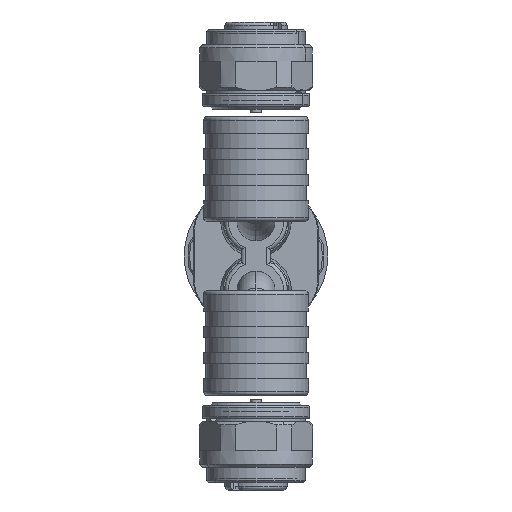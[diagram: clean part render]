
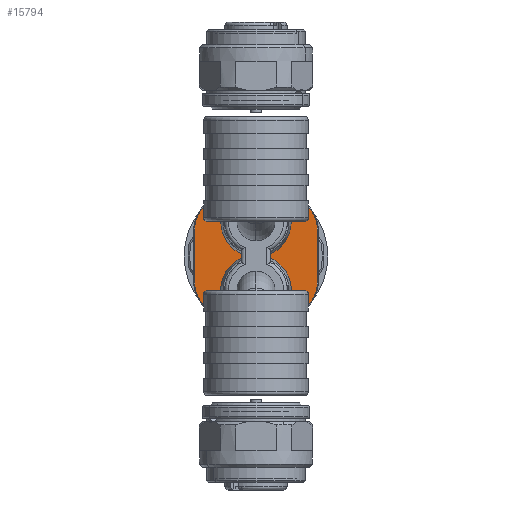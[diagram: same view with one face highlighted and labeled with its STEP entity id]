
A CAD part, front view. The second image highlights one B-rep face of the part: STEP entity #15794.
In plain terms, the highlighted planar face has unit normal (0, -1, 0).
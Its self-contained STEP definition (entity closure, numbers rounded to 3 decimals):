
#790 = DIRECTION ( 'NONE',  ( 0., -1., 0. ) ) ;
#854 = LINE ( 'NONE', #29990, #29303 ) ;
#971 = CIRCLE ( 'NONE', #17981, 4.9 ) ;
#1597 = CIRCLE ( 'NONE', #16326, 4.651 ) ;
#1790 = LINE ( 'NONE', #5033, #22061 ) ;
#1910 = DIRECTION ( 'NONE',  ( 0., -1., 0. ) ) ;
#2704 = VERTEX_POINT ( 'NONE', #29667 ) ;
#2852 = CARTESIAN_POINT ( 'NONE',  ( 0., -30.3, -4.5 ) ) ;
#3707 = AXIS2_PLACEMENT_3D ( 'NONE', #24958, #8440, #27696 ) ;
#3807 = LINE ( 'NONE', #33771, #24951 ) ;
#4070 = FACE_OUTER_BOUND ( 'NONE', #12620, .T. ) ;
#4585 = VERTEX_POINT ( 'NONE', #11546 ) ;
#4691 = DIRECTION ( 'NONE',  ( 0., -1., 0. ) ) ;
#4845 = CARTESIAN_POINT ( 'NONE',  ( -6.712, -30.3, -6.723 ) ) ;
#4970 = CIRCLE ( 'NONE', #26660, 9.5 ) ;
#5033 = CARTESIAN_POINT ( 'NONE',  ( 1.95, -30.3, -2. ) ) ;
#5139 = ORIENTED_EDGE ( 'NONE', *, *, #20087, .T. ) ;
#5228 = CIRCLE ( 'NONE', #5781, 4.9 ) ;
#5258 = CARTESIAN_POINT ( 'NONE',  ( 1.95, -30.3, -0.278 ) ) ;
#5297 = PLANE ( 'NONE',  #11982 ) ;
#5429 = CARTESIAN_POINT ( 'NONE',  ( 0., -30.3, 0. ) ) ;
#5616 = DIRECTION ( 'NONE',  ( 0., 0., 1. ) ) ;
#5781 = AXIS2_PLACEMENT_3D ( 'NONE', #31862, #15348, #34636 ) ;
#5870 = ORIENTED_EDGE ( 'NONE', *, *, #20811, .T. ) ;
#6670 = CIRCLE ( 'NONE', #28923, 9.5 ) ;
#6788 = CARTESIAN_POINT ( 'NONE',  ( 0., -30.3, 4.5 ) ) ;
#6903 = ORIENTED_EDGE ( 'NONE', *, *, #27373, .F. ) ;
#7235 = CARTESIAN_POINT ( 'NONE',  ( -8.15, -30.3, -3.255 ) ) ;
#7799 = DIRECTION ( 'NONE',  ( 0., 0., 1. ) ) ;
#8180 = DIRECTION ( 'NONE',  ( 0., 0., 1. ) ) ;
#8326 = CARTESIAN_POINT ( 'NONE',  ( -1.95, -30.3, -2. ) ) ;
#8440 = DIRECTION ( 'NONE',  ( 0., -1., 0. ) ) ;
#8894 = ORIENTED_EDGE ( 'NONE', *, *, #22666, .T. ) ;
#9229 = VERTEX_POINT ( 'NONE', #32987 ) ;
#9558 = DIRECTION ( 'NONE',  ( 0., 0., 1. ) ) ;
#9620 = EDGE_CURVE ( 'NONE', #29071, #15091, #22722, .T. ) ;
#10510 = EDGE_CURVE ( 'NONE', #26818, #26622, #4970, .T. ) ;
#10518 = CIRCLE ( 'NONE', #28941, 4.651 ) ;
#10827 = DIRECTION ( 'NONE',  ( 0., -1., 0. ) ) ;
#11281 = CIRCLE ( 'NONE', #14247, 4.651 ) ;
#11546 = CARTESIAN_POINT ( 'NONE',  ( -1.95, -30.3, 0.278 ) ) ;
#11767 = EDGE_LOOP ( 'NONE', ( #17490, #30432, #6903, #24280, #20507 ) ) ;
#11865 = CARTESIAN_POINT ( 'NONE',  ( -3.25, -30.3, -3.255 ) ) ;
#11968 = CARTESIAN_POINT ( 'NONE',  ( -1.95, -30.3, -0.278 ) ) ;
#11982 = AXIS2_PLACEMENT_3D ( 'NONE', #21686, #10827, #30138 ) ;
#12441 = EDGE_CURVE ( 'NONE', #18715, #26818, #971, .T. ) ;
#12620 = EDGE_LOOP ( 'NONE', ( #21758, #8894, #5139, #23685, #16551, #34016, #14209, #5870, #34212 ) ) ;
#12811 = CARTESIAN_POINT ( 'NONE',  ( 0., -30.3, 0. ) ) ;
#13156 = CARTESIAN_POINT ( 'NONE',  ( 0., -30.3, 9.5 ) ) ;
#13455 = DIRECTION ( 'NONE',  ( 0., 0., 1. ) ) ;
#13802 = EDGE_CURVE ( 'NONE', #14718, #2704, #1790, .T. ) ;
#14209 = ORIENTED_EDGE ( 'NONE', *, *, #14220, .T. ) ;
#14220 = EDGE_CURVE ( 'NONE', #15091, #35440, #5228, .T. ) ;
#14247 = AXIS2_PLACEMENT_3D ( 'NONE', #6788, #26056, #9558 ) ;
#14647 = DIRECTION ( 'NONE',  ( 0., 0., 1. ) ) ;
#14718 = VERTEX_POINT ( 'NONE', #5258 ) ;
#15091 = VERTEX_POINT ( 'NONE', #31616 ) ;
#15348 = DIRECTION ( 'NONE',  ( 0., -1., 0. ) ) ;
#15587 = DIRECTION ( 'NONE',  ( 0., 0., 1. ) ) ;
#15794 = ADVANCED_FACE ( 'NONE', ( #4070, #17872 ), #5297, .T. ) ;
#16326 = AXIS2_PLACEMENT_3D ( 'NONE', #2852, #22121, #5616 ) ;
#16551 = ORIENTED_EDGE ( 'NONE', *, *, #33268, .T. ) ;
#17252 = DIRECTION ( 'NONE',  ( 0., 0., -1. ) ) ;
#17279 = CARTESIAN_POINT ( 'NONE',  ( 0., -30.3, 0. ) ) ;
#17490 = ORIENTED_EDGE ( 'NONE', *, *, #21828, .F. ) ;
#17872 = FACE_BOUND ( 'NONE', #11767, .T. ) ;
#17981 = AXIS2_PLACEMENT_3D ( 'NONE', #11865, #31164, #14647 ) ;
#18440 = CARTESIAN_POINT ( 'NONE',  ( 0., -30.3, 4.5 ) ) ;
#18715 = VERTEX_POINT ( 'NONE', #7235 ) ;
#18840 = CIRCLE ( 'NONE', #3707, 4.9 ) ;
#19612 = VERTEX_POINT ( 'NONE', #32783 ) ;
#20068 = DIRECTION ( 'NONE',  ( 0., 0., 1. ) ) ;
#20087 = EDGE_CURVE ( 'NONE', #19612, #27727, #854, .T. ) ;
#20230 = CARTESIAN_POINT ( 'NONE',  ( 8.15, -30.3, 3.255 ) ) ;
#20507 = ORIENTED_EDGE ( 'NONE', *, *, #13802, .F. ) ;
#20811 = EDGE_CURVE ( 'NONE', #35440, #18715, #3807, .T. ) ;
#21206 = DIRECTION ( 'NONE',  ( 0., 0., 1. ) ) ;
#21219 = CARTESIAN_POINT ( 'NONE',  ( 3.25, -30.3, -3.255 ) ) ;
#21686 = CARTESIAN_POINT ( 'NONE',  ( 0., -30.3, 0. ) ) ;
#21758 = ORIENTED_EDGE ( 'NONE', *, *, #10510, .T. ) ;
#21828 = EDGE_CURVE ( 'NONE', #23519, #14718, #1597, .T. ) ;
#22061 = VECTOR ( 'NONE', #7799, 1000. ) ;
#22121 = DIRECTION ( 'NONE',  ( 0., -1., 0. ) ) ;
#22132 = LINE ( 'NONE', #8326, #23877 ) ;
#22666 = EDGE_CURVE ( 'NONE', #26622, #19612, #28701, .T. ) ;
#22722 = CIRCLE ( 'NONE', #26860, 9.5 ) ;
#23519 = VERTEX_POINT ( 'NONE', #11968 ) ;
#23685 = ORIENTED_EDGE ( 'NONE', *, *, #24941, .T. ) ;
#23877 = VECTOR ( 'NONE', #27590, 1000. ) ;
#23991 = DIRECTION ( 'NONE',  ( 0., 0., 1. ) ) ;
#24280 = ORIENTED_EDGE ( 'NONE', *, *, #28883, .F. ) ;
#24704 = DIRECTION ( 'NONE',  ( 0., -1., 0. ) ) ;
#24941 = EDGE_CURVE ( 'NONE', #27727, #9229, #18840, .T. ) ;
#24951 = VECTOR ( 'NONE', #17252, 1000. ) ;
#24958 = CARTESIAN_POINT ( 'NONE',  ( 3.25, -30.3, 3.255 ) ) ;
#25471 = CARTESIAN_POINT ( 'NONE',  ( -8.15, -30.3, 3.255 ) ) ;
#26056 = DIRECTION ( 'NONE',  ( 0., -1., 0. ) ) ;
#26622 = VERTEX_POINT ( 'NONE', #28592 ) ;
#26660 = AXIS2_PLACEMENT_3D ( 'NONE', #5429, #24704, #8180 ) ;
#26818 = VERTEX_POINT ( 'NONE', #4845 ) ;
#26860 = AXIS2_PLACEMENT_3D ( 'NONE', #12811, #32107, #15587 ) ;
#27373 = EDGE_CURVE ( 'NONE', #30415, #4585, #10518, .T. ) ;
#27590 = DIRECTION ( 'NONE',  ( 0., 0., -1. ) ) ;
#27696 = DIRECTION ( 'NONE',  ( 0., 0., 1. ) ) ;
#27727 = VERTEX_POINT ( 'NONE', #20230 ) ;
#28592 = CARTESIAN_POINT ( 'NONE',  ( 6.712, -30.3, -6.723 ) ) ;
#28701 = CIRCLE ( 'NONE', #30921, 4.9 ) ;
#28883 = EDGE_CURVE ( 'NONE', #2704, #30415, #11281, .T. ) ;
#28923 = AXIS2_PLACEMENT_3D ( 'NONE', #17279, #790, #20068 ) ;
#28941 = AXIS2_PLACEMENT_3D ( 'NONE', #18440, #1910, #21206 ) ;
#29071 = VERTEX_POINT ( 'NONE', #13156 ) ;
#29303 = VECTOR ( 'NONE', #13455, 1000. ) ;
#29667 = CARTESIAN_POINT ( 'NONE',  ( 1.95, -30.3, 0.278 ) ) ;
#29990 = CARTESIAN_POINT ( 'NONE',  ( 8.15, -30.3, 0. ) ) ;
#30138 = DIRECTION ( 'NONE',  ( 0., 0., 1. ) ) ;
#30415 = VERTEX_POINT ( 'NONE', #34370 ) ;
#30432 = ORIENTED_EDGE ( 'NONE', *, *, #34245, .F. ) ;
#30921 = AXIS2_PLACEMENT_3D ( 'NONE', #21219, #4691, #23991 ) ;
#31164 = DIRECTION ( 'NONE',  ( 0., -1., 0. ) ) ;
#31616 = CARTESIAN_POINT ( 'NONE',  ( -6.712, -30.3, 6.723 ) ) ;
#31862 = CARTESIAN_POINT ( 'NONE',  ( -3.25, -30.3, 3.255 ) ) ;
#32107 = DIRECTION ( 'NONE',  ( 0., -1., 0. ) ) ;
#32783 = CARTESIAN_POINT ( 'NONE',  ( 8.15, -30.3, -3.255 ) ) ;
#32987 = CARTESIAN_POINT ( 'NONE',  ( 6.712, -30.3, 6.723 ) ) ;
#33268 = EDGE_CURVE ( 'NONE', #9229, #29071, #6670, .T. ) ;
#33771 = CARTESIAN_POINT ( 'NONE',  ( -8.15, -30.3, 0. ) ) ;
#34016 = ORIENTED_EDGE ( 'NONE', *, *, #9620, .T. ) ;
#34212 = ORIENTED_EDGE ( 'NONE', *, *, #12441, .T. ) ;
#34245 = EDGE_CURVE ( 'NONE', #4585, #23519, #22132, .T. ) ;
#34370 = CARTESIAN_POINT ( 'NONE',  ( 0., -30.3, 9.151 ) ) ;
#34636 = DIRECTION ( 'NONE',  ( 0., 0., 1. ) ) ;
#35440 = VERTEX_POINT ( 'NONE', #25471 ) ;
